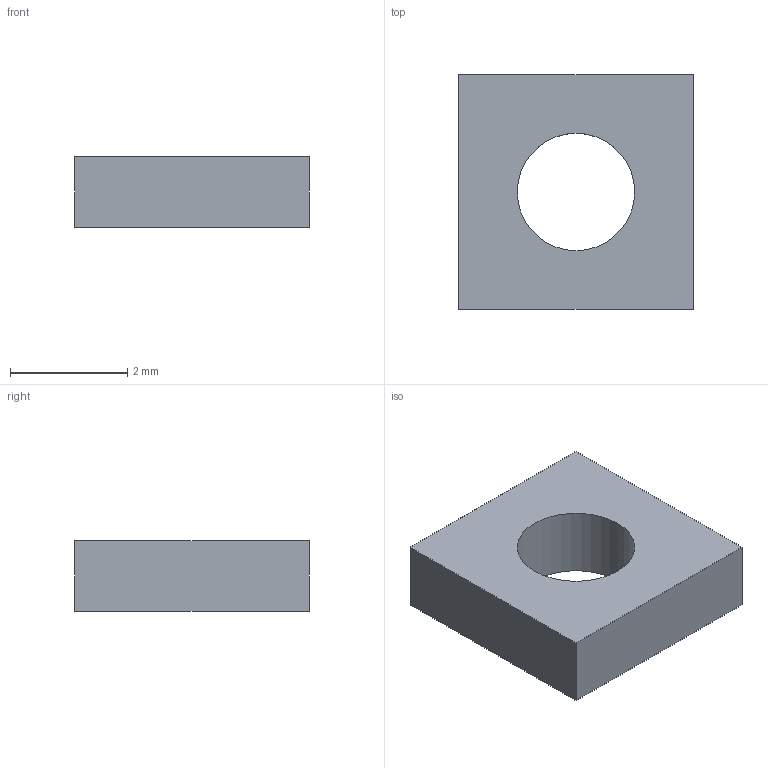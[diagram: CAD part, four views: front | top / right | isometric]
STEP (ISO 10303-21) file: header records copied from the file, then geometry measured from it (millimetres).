
FILE_DESCRIPTION(('Open CASCADE Model'),'2;1');
FILE_NAME('Open CASCADE Shape Model','2026-11-23T18:10:07',('Author'),( 'Open CASCADE'),'Open CASCADE STEP processor 8.0','build123d', 'Unknown');
FILE_SCHEMA(('AUTOMOTIVE_DESIGN { 1 0 10303 214 1 1 1 1 }'));
Length unit declared in the file: millimetre
Products named in the file (1): SOLID
Bounding box: 4 x 4 x 1.2 mm (x, y, z)
Volume: 15.4 mm3; surface area: 52.5 mm2
Topology: 1 solids, 1 shells, 7 faces, 15 edges, 10 vertices
Faces by surface type: plane 6, cylinder 1
Full cylindrical faces by diameter (mm): 2 x1
Entity records: 400 total; most frequent: CARTESIAN_POINT 63, DIRECTION 63, LINE 41, VECTOR 41, ORIENTED_EDGE 30, PCURVE 30, DEFINITIONAL_REPRESENTATION 30, EDGE_CURVE 15
